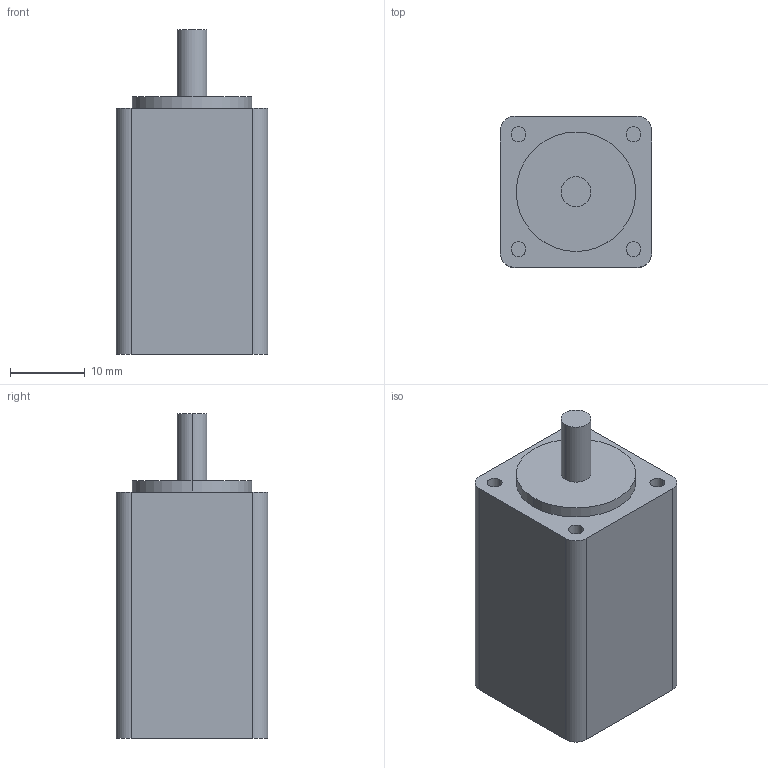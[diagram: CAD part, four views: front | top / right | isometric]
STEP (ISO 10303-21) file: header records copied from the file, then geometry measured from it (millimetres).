
FILE_DESCRIPTION (( 'STEP AP214' ), '1' );
FILE_NAME ('20CM003.STEP', '2018-06-04T11:52:52', ( 'Microsoft' ), ( 'China' ), 'SwSTEP 2.0', 'SolidWorks 2011', '' );
FILE_SCHEMA (( 'AUTOMOTIVE_DESIGN' ));
Length unit declared in the file: millimetre
Products named in the file (1): 20CM003
Bounding box: 20.3 x 20.3 x 43.5 mm (x, y, z)
Volume: 13875.2 mm3; surface area: 3622.4 mm2
Topology: 1 solids, 1 shells, 28 faces, 60 edges, 40 vertices
Faces by surface type: cylinder 16, plane 12
Entity records: 810 total; most frequent: DIRECTION 150, CARTESIAN_POINT 129, ORIENTED_EDGE 120, AXIS2_PLACEMENT_3D 61, EDGE_CURVE 60, VERTEX_POINT 40, EDGE_LOOP 34, CIRCLE 32
